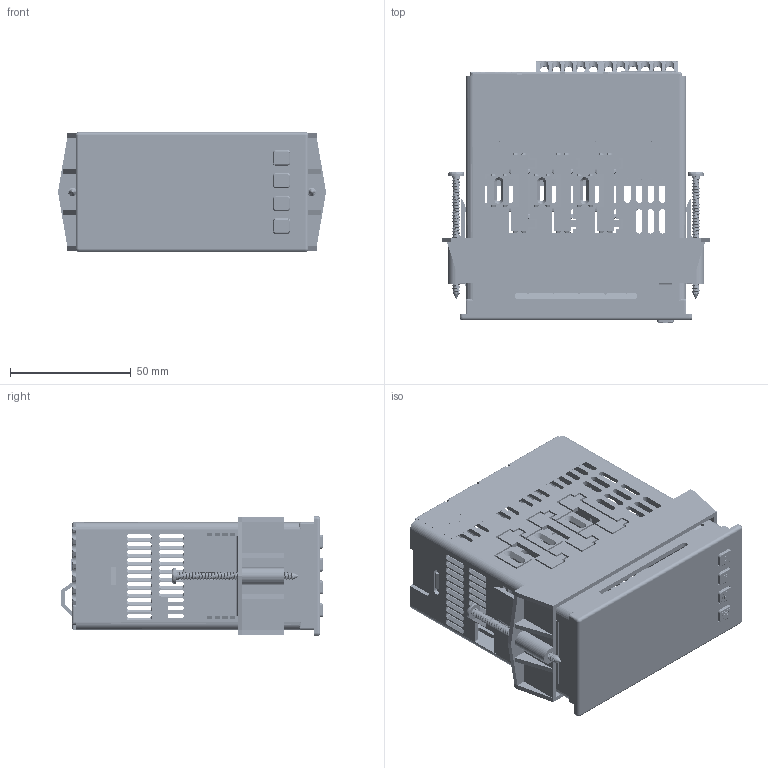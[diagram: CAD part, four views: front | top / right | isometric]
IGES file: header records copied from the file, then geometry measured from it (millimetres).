
Start section: SolidWorks IGES file using analytic representation for surfaces
Global section: file name: W:\Teams\Mech\SE data\Product_Lines\Customer 3D Models (Step files)\PAX2A\IGES\PAX2A.IGS; native system: SolidWorks 2022; preprocessor: SolidWorks 2022; author: joseph.cirabisi; date: 221220.134820; units: millimetre
Bounding box: 111.07 x 108.71 x 49.53 mm (x, y, z)
Surface area: 147228.7 mm2 (no closed solid volume)
Topology: 0 solids, 0 shells, 5058 faces, 50577 edges, 50533 vertices
Faces by surface type: bspline 3728, revolution 1330
